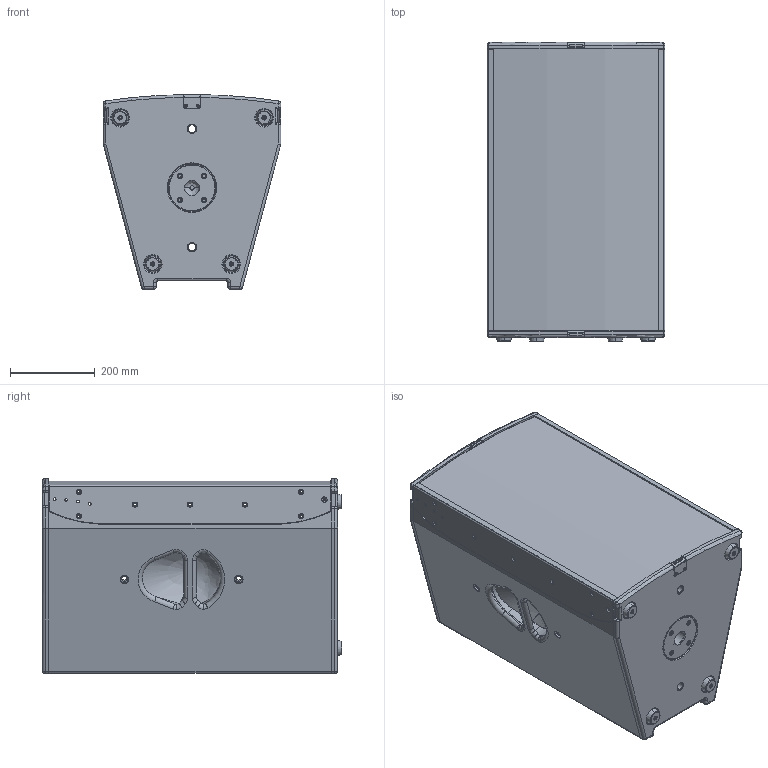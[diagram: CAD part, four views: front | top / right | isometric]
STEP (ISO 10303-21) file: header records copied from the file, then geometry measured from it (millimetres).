
FILE_DESCRIPTION (( 'STEP AP203' ), '1' );
FILE_NAME ('SEEBURG_K24.STEP', '2012-09-26T11:32:26', ( 'Fabian' ), ( '' ), 'SwSTEP 2.0', 'SolidWorks 2009', '' );
FILE_SCHEMA (( 'CONFIG_CONTROL_DESIGN' ));
Length unit declared in the file: millimetre
Products named in the file (19): rechteSeitenwand(v); rechteSeitenwand(h); Gitterleiste(links); SEEBURG_K24; Deckel(K24); Boden(K24); RückwandLeiste(K24); linkeSeitenwand(v); Griffaufdopplung_gedreht; linkeSeitenwand(h); K24_ASF_Internet; Rückwand(K24); 35mm_flanschhülse_110mm; Gitterleiste(rechts); abs_fuss; ABS-Fuﾟ; Befestigungsöse; Griffschale_oval; K24_Gitter_Internet
Assembly tree (24 placements, depth 3):
  SEEBURG_K24
    abs_fuss  x4
      ABS-Fuﾟ
    K24_ASF_Internet
    Gitterleiste(rechts)
    Gitterleiste(links)
    Griffaufdopplung_gedreht
    rechteSeitenwand(h)
    Befestigungsöse  x2
    linkeSeitenwand(v)
    rechteSeitenwand(v)
    linkeSeitenwand(h)
    Rückwand(K24)
    Griffschale_oval  x2
    RückwandLeiste(K24)  x2
    K24_Gitter_Internet
    Boden(K24)
    Deckel(K24)
    35mm_flanschhülse_110mm
Bounding box: 420 x 707.5 x 460.69 mm (x, y, z)
Volume: 15326229.1 mm3; surface area: 3505837.6 mm2
Topology: 23 solids, 23 shells, 875 faces, 2313 edges, 1488 vertices
Faces by surface type: cylinder 354, plane 299, cone 124, torus 62, bspline 28, sphere 8
Entity records: 30749 total; most frequent: CARTESIAN_POINT 10028, DIRECTION 4117, ORIENTED_EDGE 3746, EDGE_CURVE 1873, AXIS2_PLACEMENT_3D 1623, VERTEX_POINT 1209, EDGE_LOOP 898, CIRCLE 896
